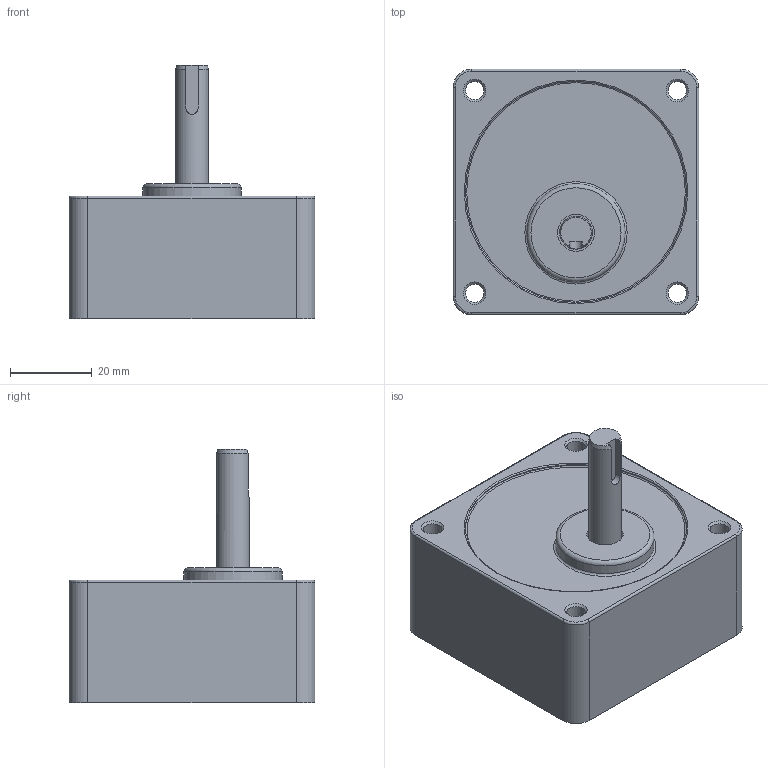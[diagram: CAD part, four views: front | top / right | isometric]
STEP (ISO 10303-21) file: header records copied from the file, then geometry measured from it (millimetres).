
FILE_DESCRIPTION((''),'2;1');
FILE_NAME('D:\STP파일\GEAR HEAD\6W\S6KA3~18.stp','2013-05-20T19:05:46',('leebh'),(''),'Autodesk Inventor 2011','Autodesk Inventor 2011','');
FILE_SCHEMA(('AUTOMOTIVE_DESIGN { 1 0 10303 214 1 1 1 1 }'));
Length unit declared in the file: millimetre
Products named in the file (1): S9I90G-T1
Bounding box: 60 x 60 x 62 mm (x, y, z)
Volume: 95637.9 mm3; surface area: 17968.7 mm2
Topology: 1 solids, 1 shells, 47 faces, 102 edges, 63 vertices
Faces by surface type: cylinder 19, plane 15, torus 8, cone 5
Full cylindrical faces by diameter (mm): 4.5 x4, 6 x1, 8 x1, 9 x1, 24 x1, 53.997 x1, 54 x1
Entity records: 1241 total; most frequent: DIRECTION 225, CARTESIAN_POINT 215, ORIENTED_EDGE 166, AXIS2_PLACEMENT_3D 98, EDGE_CURVE 83, EDGE_LOOP 79, VERTEX_POINT 62, CIRCLE 50
